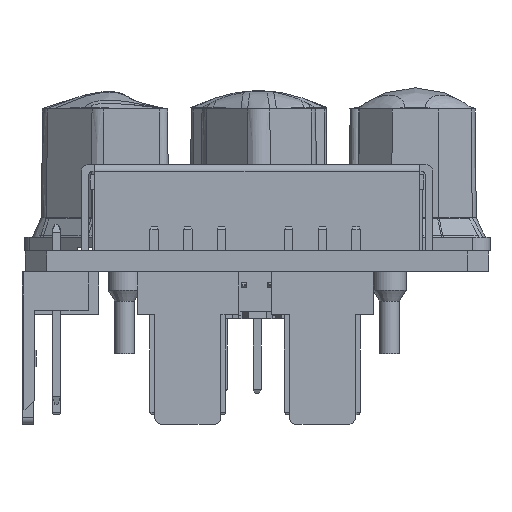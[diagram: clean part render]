
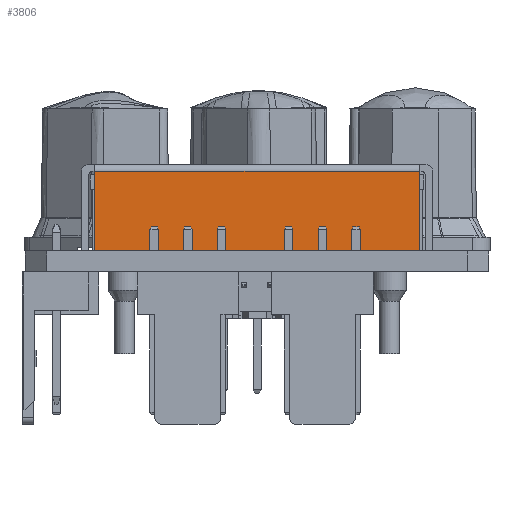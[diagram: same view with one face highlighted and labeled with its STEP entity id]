
A CAD part, left-side view. The second image highlights one B-rep face of the part: STEP entity #3806.
In plain terms, the highlighted planar face has unit normal (-1, 0, 0).
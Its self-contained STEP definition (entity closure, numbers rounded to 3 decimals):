
#698 = ORIENTED_EDGE ( 'NONE', *, *, #1194, .F. ) ;
#1194 = EDGE_CURVE ( 'NONE', #45145, #102167, #2323, .T. ) ;
#2323 = LINE ( 'NONE', #21746, #28068 ) ;
#3047 = EDGE_LOOP ( 'NONE', ( #109532, #13224, #698, #17658 ) ) ;
#3806 = ADVANCED_FACE ( 'NONE', ( #118975 ), #52006, .F. ) ;
#8234 = VECTOR ( 'NONE', #46594, 1000. ) ;
#13224 = ORIENTED_EDGE ( 'NONE', *, *, #108710, .T. ) ;
#17658 = ORIENTED_EDGE ( 'NONE', *, *, #44333, .T. ) ;
#18092 = LINE ( 'NONE', #111548, #61305 ) ;
#21746 = CARTESIAN_POINT ( 'NONE',  ( -59.698, 19.707, 1.764 ) ) ;
#22506 = DIRECTION ( 'NONE',  ( 1., 0., 0. ) ) ;
#24990 = CARTESIAN_POINT ( 'NONE',  ( -59.698, 19.707, 7.764 ) ) ;
#25797 = DIRECTION ( 'NONE',  ( 0., 1., 0. ) ) ;
#26982 = DIRECTION ( 'NONE',  ( 0., -1., 0. ) ) ;
#28068 = VECTOR ( 'NONE', #96889, 1000. ) ;
#40380 = AXIS2_PLACEMENT_3D ( 'NONE', #90103, #22506, #70188 ) ;
#44333 = EDGE_CURVE ( 'NONE', #45145, #95700, #122189, .T. ) ;
#44765 = CARTESIAN_POINT ( 'NONE',  ( -59.698, -4.793, 1.764 ) ) ;
#45145 = VERTEX_POINT ( 'NONE', #95150 ) ;
#46594 = DIRECTION ( 'NONE',  ( 0., 0., 1. ) ) ;
#52006 = PLANE ( 'NONE',  #40380 ) ;
#52070 = CARTESIAN_POINT ( 'NONE',  ( -59.698, -4.793, 7.764 ) ) ;
#56468 = CARTESIAN_POINT ( 'NONE',  ( -59.698, 20.707, 1.764 ) ) ;
#61305 = VECTOR ( 'NONE', #25797, 1000. ) ;
#62620 = EDGE_CURVE ( 'NONE', #95700, #89623, #94105, .T. ) ;
#70188 = DIRECTION ( 'NONE',  ( 0., 0., -1. ) ) ;
#89623 = VERTEX_POINT ( 'NONE', #52070 ) ;
#90103 = CARTESIAN_POINT ( 'NONE',  ( -59.698, 20.707, 8.264 ) ) ;
#94105 = LINE ( 'NONE', #44765, #8234 ) ;
#95150 = CARTESIAN_POINT ( 'NONE',  ( -59.698, 19.707, 1.764 ) ) ;
#95700 = VERTEX_POINT ( 'NONE', #119356 ) ;
#96889 = DIRECTION ( 'NONE',  ( 0., 0., 1. ) ) ;
#102167 = VERTEX_POINT ( 'NONE', #24990 ) ;
#108047 = VECTOR ( 'NONE', #26982, 1000. ) ;
#108710 = EDGE_CURVE ( 'NONE', #89623, #102167, #18092, .T. ) ;
#109532 = ORIENTED_EDGE ( 'NONE', *, *, #62620, .T. ) ;
#111548 = CARTESIAN_POINT ( 'NONE',  ( -59.698, 19.707, 7.764 ) ) ;
#118975 = FACE_OUTER_BOUND ( 'NONE', #3047, .T. ) ;
#119356 = CARTESIAN_POINT ( 'NONE',  ( -59.698, -4.793, 1.764 ) ) ;
#122189 = LINE ( 'NONE', #56468, #108047 ) ;
